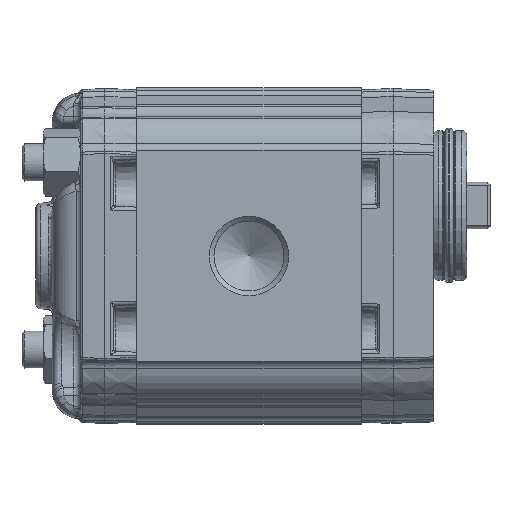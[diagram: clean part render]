
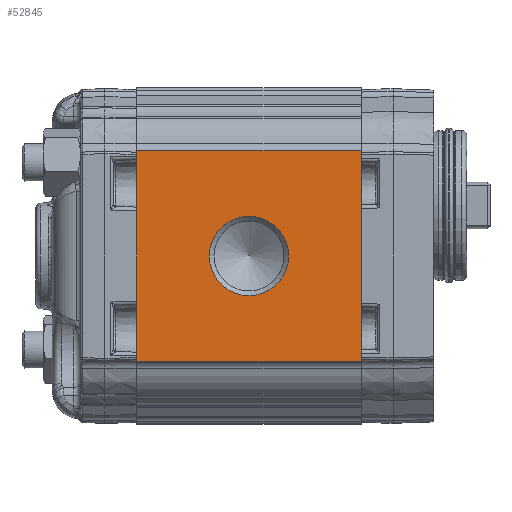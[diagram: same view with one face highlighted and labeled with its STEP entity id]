
A CAD part, left-side view. The second image highlights one B-rep face of the part: STEP entity #52845.
In plain terms, the highlighted planar face has unit normal (-1, 0, 0).
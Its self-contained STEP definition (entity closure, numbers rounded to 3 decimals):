
#4214=LINE('',#93739,#5976);
#4224=LINE('',#93840,#5986);
#4243=LINE('',#93888,#6005);
#4244=LINE('',#93890,#6006);
#5976=VECTOR('',#62744,1000.);
#5986=VECTOR('',#62836,1000.);
#6005=VECTOR('',#62891,1000.);
#6006=VECTOR('',#62894,1000.);
#11544=ORIENTED_EDGE('',*,*,#20322,.F.);
#11545=ORIENTED_EDGE('',*,*,#20420,.T.);
#11546=ORIENTED_EDGE('',*,*,#20392,.T.);
#11547=ORIENTED_EDGE('',*,*,#20421,.T.);
#11548=ORIENTED_EDGE('',*,*,#20342,.F.);
#20322=EDGE_CURVE('',#25031,#25031,#27971,.F.);
#20342=EDGE_CURVE('',#25052,#25053,#4214,.T.);
#20392=EDGE_CURVE('',#25103,#25102,#4224,.T.);
#20420=EDGE_CURVE('',#25052,#25103,#4243,.T.);
#20421=EDGE_CURVE('',#25102,#25053,#4244,.F.);
#25031=VERTEX_POINT('',#93695);
#25052=VERTEX_POINT('',#93738);
#25053=VERTEX_POINT('',#93740);
#25102=VERTEX_POINT('',#93839);
#25103=VERTEX_POINT('',#93841);
#27971=CIRCLE('',#56066,8.475);
#30261=EDGE_LOOP('',(#11544));
#30262=EDGE_LOOP('',(#11545,#11546,#11547,#11548));
#32918=FACE_BOUND('',#30261,.T.);
#32919=FACE_BOUND('',#30262,.T.);
#34675=PLANE('',#56162);
#52845=ADVANCED_FACE('',(#32918,#32919),#34675,.T.);
#56066=AXIS2_PLACEMENT_3D('',#93694,#62701,#62702);
#56162=AXIS2_PLACEMENT_3D('',#93917,#62937,#62938);
#62701=DIRECTION('',(1.,0.,0.));
#62702=DIRECTION('',(0.,0.,-1.));
#62744=DIRECTION('',(0.,0.,1.));
#62836=DIRECTION('',(0.,0.,1.));
#62891=DIRECTION('',(0.,-1.,0.));
#62894=DIRECTION('',(0.,-1.,0.));
#62937=DIRECTION('',(-1.,0.,0.));
#62938=DIRECTION('',(0.,0.,1.));
#93694=CARTESIAN_POINT('',(-33.,24.,0.));
#93695=CARTESIAN_POINT('',(-33.,24.,-8.475));
#93738=CARTESIAN_POINT('',(-33.,48.,-22.5));
#93739=CARTESIAN_POINT('',(-33.,48.,-21.711));
#93740=CARTESIAN_POINT('',(-33.,48.,22.5));
#93839=CARTESIAN_POINT('',(-33.,0.,22.5));
#93840=CARTESIAN_POINT('',(-33.,0.,-21.711));
#93841=CARTESIAN_POINT('',(-33.,0.,-22.5));
#93888=CARTESIAN_POINT('',(-33.,48.,-22.5));
#93890=CARTESIAN_POINT('',(-33.,48.,22.5));
#93917=CARTESIAN_POINT('',(-33.,127.15,48.138));
